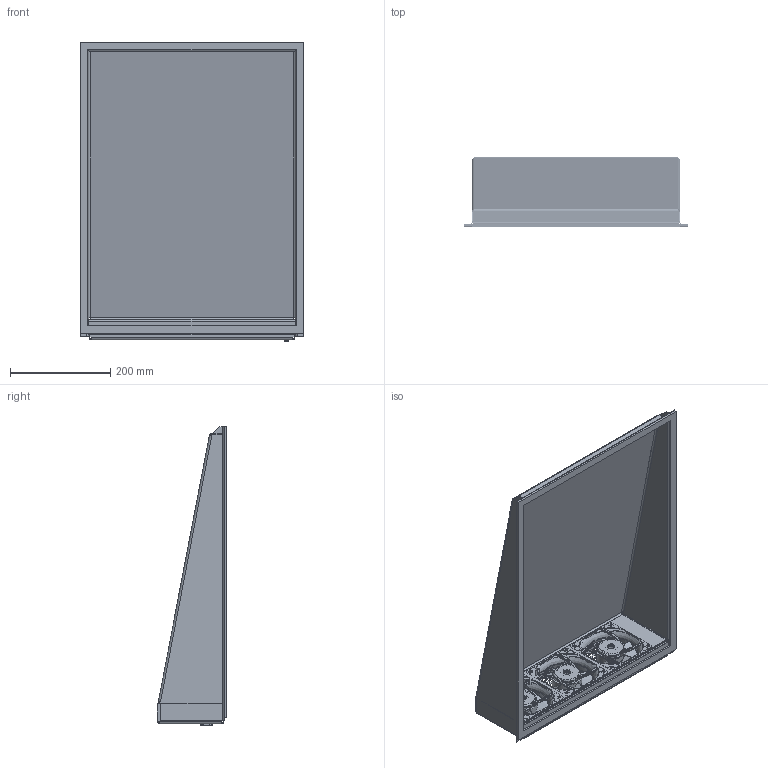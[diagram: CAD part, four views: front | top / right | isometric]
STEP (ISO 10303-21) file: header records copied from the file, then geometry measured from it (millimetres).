
FILE_DESCRIPTION(/* description */ (''),/* implementation_level */ '2;1');
FILE_NAME(/* name */ '015014_01-APS_fan box.stp',/* time_stamp */ '2023-05-26T11:15:14+02:00',/* author */ (''),/* organization */ (''),/* preprocessor_version */ 'ST-DEVELOPER v18.1',/* originating_system */ 'SIEMENS PLM Software NX 1973',/* authorisation */ '');
FILE_SCHEMA (('AUTOMOTIVE_DESIGN { 1 0 10303 214 3 1 1 1 }'));
Products named in the file (7): 015472_01-FB_Fan unit_PCB; 015456_01-FB_Fan unit_housing; 015016_01-EBMPAPST 4118 NH4 with tacho; 015833_01-APS_fan box_gasket; 015015_01-APS_fan box_housing; 015455_01-FB_fan unit; 015014_01-APS_fan box
Assembly tree (8 placements, depth 3):
  015014_01-APS_fan box
    015015_01-APS_fan box_housing
    015455_01-FB_fan unit
      015016_01-EBMPAPST 4118 NH4 with tacho  x3
      015456_01-FB_Fan unit_housing
      015472_01-FB_Fan unit_PCB
    015833_01-APS_fan box_gasket
Bounding box: 445 x 138.68 x 597.52 mm (x, y, z)
Volume: 1086447.8 mm3; surface area: 1279130.2 mm2
Topology: 50 solids, 50 shells, 9256 faces, 25353 edges, 16619 vertices
Faces by surface type: plane 6049, cylinder 2041, bspline 555, torus 285, cone 238, extrusion 78, sphere 10
Full cylindrical faces by diameter (mm): 2.7 x4, 3.05 x2, 4.3 x24
Entity records: 216390 total; most frequent: CARTESIAN_POINT 63782, ORIENTED_EDGE 31820, DIRECTION 28798, EDGE_CURVE 15910, VECTOR 11362, LINE 11284, VERTEX_POINT 10399, AXIS2_PLACEMENT_3D 8718
